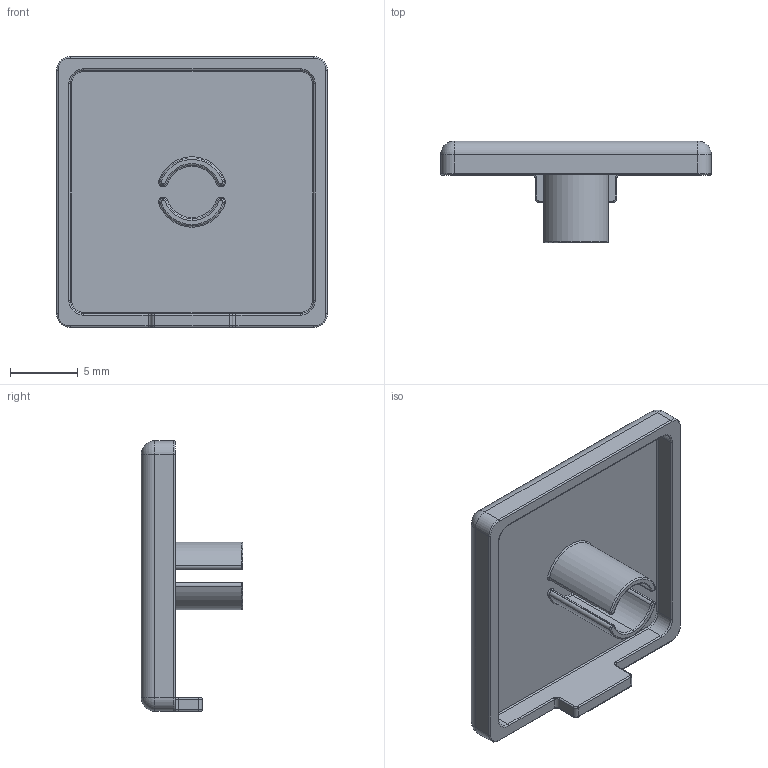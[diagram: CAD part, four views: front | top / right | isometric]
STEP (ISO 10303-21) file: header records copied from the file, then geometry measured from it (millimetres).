
FILE_DESCRIPTION (( 'STEP AP214' ), '1' );
FILE_NAME ('4001.STEP', '2015-05-06T11:49:33', ( '' ), ( '' ), 'SwSTEP 2.0', 'SolidWorks 2014', '' );
FILE_SCHEMA (( 'AUTOMOTIVE_DESIGN' ));
Length unit declared in the file: millimetre
Products named in the file (1): 4001
Bounding box: 20 x 7.5 x 20 mm (x, y, z)
Volume: 547.2 mm3; surface area: 1246.1 mm2
Topology: 1 solids, 1 shells, 130 faces, 294 edges, 164 vertices
Faces by surface type: cylinder 58, torus 48, plane 20, sphere 4
Entity records: 3628 total; most frequent: DIRECTION 736, CARTESIAN_POINT 585, ORIENTED_EDGE 580, AXIS2_PLACEMENT_3D 315, EDGE_CURVE 290, CIRCLE 184, VERTEX_POINT 164, EDGE_LOOP 132
